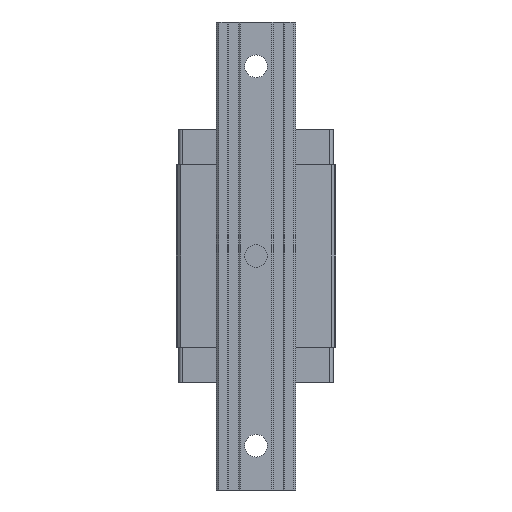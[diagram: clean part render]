
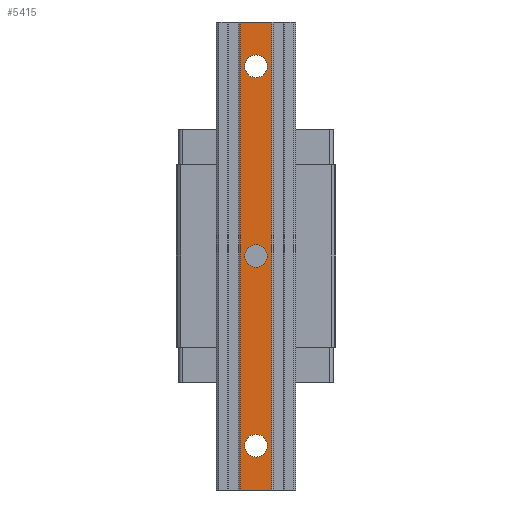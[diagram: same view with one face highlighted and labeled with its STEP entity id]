
A CAD part, front view. The second image highlights one B-rep face of the part: STEP entity #5415.
In plain terms, the highlighted planar face has unit normal (0, -1, 0).
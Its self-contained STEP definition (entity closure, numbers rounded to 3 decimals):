
#3 = VERTEX_POINT ( 'NONE', #2908 ) ;
#69 = EDGE_CURVE ( 'NONE', #3, #1586, #1867, .T. ) ;
#118 = DIRECTION ( 'NONE',  ( 0., 0., 1. ) ) ;
#205 = DIRECTION ( 'NONE',  ( 0., 0., 1. ) ) ;
#219 = ORIENTED_EDGE ( 'NONE', *, *, #5195, .T. ) ;
#361 = CARTESIAN_POINT ( 'NONE',  ( 0., -53., -141. ) ) ;
#526 = CARTESIAN_POINT ( 'NONE',  ( 0., -53., -150. ) ) ;
#579 = VERTEX_POINT ( 'NONE', #8549 ) ;
#1000 = DIRECTION ( 'NONE',  ( 1., 0., 0. ) ) ;
#1009 = AXIS2_PLACEMENT_3D ( 'NONE', #9146, #11042, #4121 ) ;
#1027 = CARTESIAN_POINT ( 'NONE',  ( 0., -53., 159. ) ) ;
#1094 = AXIS2_PLACEMENT_3D ( 'NONE', #5100, #8960, #118 ) ;
#1293 = DIRECTION ( 'NONE',  ( 0., 0., 1. ) ) ;
#1586 = VERTEX_POINT ( 'NONE', #12058 ) ;
#1867 = LINE ( 'NONE', #5813, #6717 ) ;
#1921 = LINE ( 'NONE', #9919, #10310 ) ;
#2381 = DIRECTION ( 'NONE',  ( 0., 1., 0. ) ) ;
#2440 = ORIENTED_EDGE ( 'NONE', *, *, #69, .T. ) ;
#2464 = VERTEX_POINT ( 'NONE', #9343 ) ;
#2474 = DIRECTION ( 'NONE',  ( 0., 0., -1. ) ) ;
#2516 = ORIENTED_EDGE ( 'NONE', *, *, #5741, .F. ) ;
#2728 = AXIS2_PLACEMENT_3D ( 'NONE', #3211, #2381, #6313 ) ;
#2908 = CARTESIAN_POINT ( 'NONE',  ( -12.5, -53., 185. ) ) ;
#3210 = ORIENTED_EDGE ( 'NONE', *, *, #4762, .T. ) ;
#3211 = CARTESIAN_POINT ( 'NONE',  ( 0., -53., -150. ) ) ;
#3241 = FACE_BOUND ( 'NONE', #9989, .T. ) ;
#3691 = CIRCLE ( 'NONE', #1009, 9. ) ;
#3932 = VERTEX_POINT ( 'NONE', #1027 ) ;
#4121 = DIRECTION ( 'NONE',  ( 0., 0., 1. ) ) ;
#4241 = CARTESIAN_POINT ( 'NONE',  ( 0., -53., -9. ) ) ;
#4464 = CARTESIAN_POINT ( 'NONE',  ( -12.5, -53., -185. ) ) ;
#4466 = DIRECTION ( 'NONE',  ( 0., 1., 0. ) ) ;
#4762 = EDGE_CURVE ( 'NONE', #9581, #3932, #10758, .T. ) ;
#4836 = DIRECTION ( 'NONE',  ( 0., 0., -1. ) ) ;
#4862 = ORIENTED_EDGE ( 'NONE', *, *, #5972, .T. ) ;
#4996 = AXIS2_PLACEMENT_3D ( 'NONE', #4464, #9310, #2474 ) ;
#5100 = CARTESIAN_POINT ( 'NONE',  ( 0., -53., 0. ) ) ;
#5195 = EDGE_CURVE ( 'NONE', #1586, #2464, #12646, .T. ) ;
#5415 = ADVANCED_FACE ( 'NONE', ( #3241, #7174, #6230, #10138 ), #9185, .T. ) ;
#5425 = EDGE_CURVE ( 'NONE', #2464, #7667, #12293, .T. ) ;
#5741 = EDGE_CURVE ( 'NONE', #3, #7667, #1921, .T. ) ;
#5784 = CARTESIAN_POINT ( 'NONE',  ( 0., -53., -185. ) ) ;
#5813 = CARTESIAN_POINT ( 'NONE',  ( -12.5, -53., -185. ) ) ;
#5865 = DIRECTION ( 'NONE',  ( 1., 0., 0. ) ) ;
#5972 = EDGE_CURVE ( 'NONE', #579, #11430, #6025, .T. ) ;
#6025 = CIRCLE ( 'NONE', #2728, 9. ) ;
#6165 = EDGE_LOOP ( 'NONE', ( #2440, #219, #6398, #2516 ) ) ;
#6211 = CIRCLE ( 'NONE', #12332, 9. ) ;
#6230 = FACE_BOUND ( 'NONE', #11278, .T. ) ;
#6310 = ORIENTED_EDGE ( 'NONE', *, *, #12406, .T. ) ;
#6313 = DIRECTION ( 'NONE',  ( 0., 0., 1. ) ) ;
#6333 = ORIENTED_EDGE ( 'NONE', *, *, #7603, .T. ) ;
#6343 = CIRCLE ( 'NONE', #9423, 9. ) ;
#6398 = ORIENTED_EDGE ( 'NONE', *, *, #5425, .T. ) ;
#6624 = EDGE_LOOP ( 'NONE', ( #9969, #3210 ) ) ;
#6717 = VECTOR ( 'NONE', #4836, 1000. ) ;
#7038 = DIRECTION ( 'NONE',  ( 0., 1., 0. ) ) ;
#7174 = FACE_BOUND ( 'NONE', #6624, .T. ) ;
#7603 = EDGE_CURVE ( 'NONE', #11107, #12378, #6343, .T. ) ;
#7621 = CARTESIAN_POINT ( 'NONE',  ( 12.5, -53., -185. ) ) ;
#7639 = ORIENTED_EDGE ( 'NONE', *, *, #9809, .T. ) ;
#7667 = VERTEX_POINT ( 'NONE', #10657 ) ;
#8549 = CARTESIAN_POINT ( 'NONE',  ( 0., -53., -159. ) ) ;
#8710 = CIRCLE ( 'NONE', #1094, 9. ) ;
#8960 = DIRECTION ( 'NONE',  ( 0., 1., 0. ) ) ;
#8976 = CARTESIAN_POINT ( 'NONE',  ( 0., -53., 0. ) ) ;
#8990 = DIRECTION ( 'NONE',  ( 0., 1., 0. ) ) ;
#9146 = CARTESIAN_POINT ( 'NONE',  ( 0., -53., 150. ) ) ;
#9178 = CARTESIAN_POINT ( 'NONE',  ( 0., -53., 150. ) ) ;
#9185 = PLANE ( 'NONE',  #4996 ) ;
#9310 = DIRECTION ( 'NONE',  ( 0., -1., 0. ) ) ;
#9343 = CARTESIAN_POINT ( 'NONE',  ( 12.5, -53., -185. ) ) ;
#9423 = AXIS2_PLACEMENT_3D ( 'NONE', #8976, #7038, #1293 ) ;
#9581 = VERTEX_POINT ( 'NONE', #10297 ) ;
#9809 = EDGE_CURVE ( 'NONE', #12378, #11107, #8710, .T. ) ;
#9919 = CARTESIAN_POINT ( 'NONE',  ( 0., -53., 185. ) ) ;
#9969 = ORIENTED_EDGE ( 'NONE', *, *, #10349, .T. ) ;
#9989 = EDGE_LOOP ( 'NONE', ( #7639, #6333 ) ) ;
#10138 = FACE_OUTER_BOUND ( 'NONE', #6165, .T. ) ;
#10297 = CARTESIAN_POINT ( 'NONE',  ( 0., -53., 141. ) ) ;
#10310 = VECTOR ( 'NONE', #5865, 1000. ) ;
#10349 = EDGE_CURVE ( 'NONE', #3932, #9581, #3691, .T. ) ;
#10432 = DIRECTION ( 'NONE',  ( 0., 0., 1. ) ) ;
#10500 = VECTOR ( 'NONE', #1000, 1000. ) ;
#10657 = CARTESIAN_POINT ( 'NONE',  ( 12.5, -53., 185. ) ) ;
#10758 = CIRCLE ( 'NONE', #11179, 9. ) ;
#11042 = DIRECTION ( 'NONE',  ( 0., 1., 0. ) ) ;
#11107 = VERTEX_POINT ( 'NONE', #4241 ) ;
#11179 = AXIS2_PLACEMENT_3D ( 'NONE', #9178, #8990, #205 ) ;
#11278 = EDGE_LOOP ( 'NONE', ( #6310, #4862 ) ) ;
#11430 = VERTEX_POINT ( 'NONE', #361 ) ;
#12058 = CARTESIAN_POINT ( 'NONE',  ( -12.5, -53., -185. ) ) ;
#12158 = VECTOR ( 'NONE', #10432, 1000. ) ;
#12228 = CARTESIAN_POINT ( 'NONE',  ( 0., -53., 9. ) ) ;
#12293 = LINE ( 'NONE', #7621, #12158 ) ;
#12332 = AXIS2_PLACEMENT_3D ( 'NONE', #526, #4466, #12475 ) ;
#12378 = VERTEX_POINT ( 'NONE', #12228 ) ;
#12406 = EDGE_CURVE ( 'NONE', #11430, #579, #6211, .T. ) ;
#12475 = DIRECTION ( 'NONE',  ( 0., 0., 1. ) ) ;
#12646 = LINE ( 'NONE', #5784, #10500 ) ;
